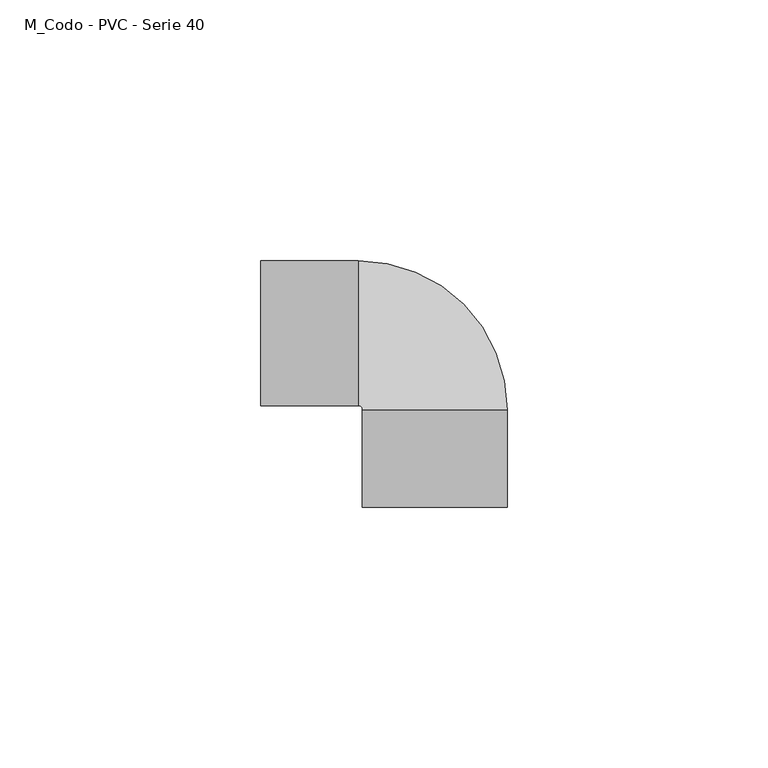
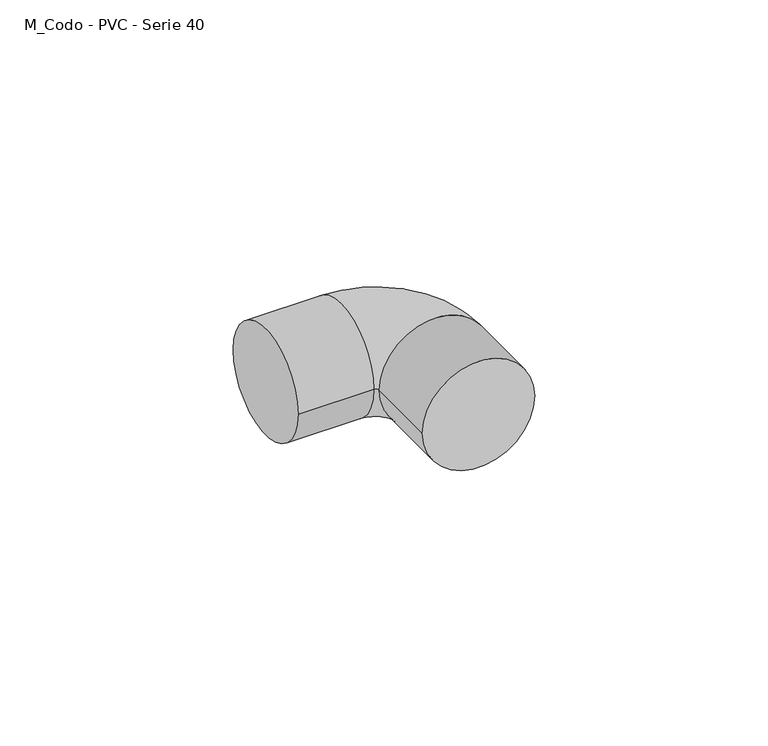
"""IFC4 building model written with IfcOpenShell, lengths in millimetres: pipe fitting geometry, M_Codo - PVC - Serie 40 : Estándar."""

from ifc_helpers import new_model, si_unit, point, frame, origin, place, context, project, spatial, circle_curve, ellipse_curve, trimmed, source, transform, mapped, element, save
from ifc_brep_helpers import plane_surface, cylinder_surface, revolved_surface, advanced_brep


def m_codo_pvc_serie_40_ba05d404(model_context):
    return source(origin(), model_context, "Body", "AdvancedBrep", [
        advanced_brep(
        [(-33.401, 13.8945938, 0.0), (-33.401, -13.8945937, 0.0), (-14.6883437, -13.8945937, 0.0), (-14.6883437, 13.8945938, 0.0), (-13.8945937, -14.6883437, 0.0), (13.8945938, -14.6883437, 0.0), (13.8945938, -33.401, 0.0), (-13.8945937, -33.401, 0.0)],
        [
            (0, 1, circle_curve(frame((-33.401, 0.0, 0.0), z_axis=(-1.0, 0.0, 0.0), x_axis=(0.0, -1.0, 0.0)), 13.8945938)),
            (1, 0, circle_curve(frame((-33.401, 0.0, 0.0), z_axis=(-1.0, 0.0, 0.0), x_axis=(0.0, -1.0, 0.0)), 13.8945938)),
            (1, 2),
            (2, 3, circle_curve(frame((-14.6883437, 0.0, 0.0), z_axis=(-1.0, 0.0, 0.0), x_axis=(0.0, -1.0, 0.0)), 13.8945938)),
            (3, 0),
            (3, 2, circle_curve(frame((-14.6883437, 0.0, 0.0), z_axis=(-1.0, 0.0, 0.0), x_axis=(0.0, -1.0, 0.0)), 13.8945938)),
            (4, 5, circle_curve(frame((0.0, -14.6883437, 0.0), z_axis=(0.0, 1.0, 0.0), x_axis=(-1.0, 0.0, 0.0)), 13.8945938)),
            (5, 3, circle_curve(frame((-14.6883437, -14.6883437, 0.0), z_axis=(0.0, 0.0, 1.0), x_axis=(0.0, 1.0, 0.0)), 28.5829375)),
            (2, 4, circle_curve(frame((-14.6883437, -14.6883437, 0.0), z_axis=(0.0, 0.0, -1.0), x_axis=(0.0, 1.0, 0.0)), 0.79375)),
            (5, 4, circle_curve(frame((0.0, -14.6883437, 0.0), z_axis=(0.0, 1.0, 0.0), x_axis=(-1.0, 0.0, 0.0)), 13.8945938)),
            (6, 7, circle_curve(frame((0.0, -33.401, 0.0), z_axis=(0.0, -1.0, 0.0), x_axis=(-1.0, 0.0, 0.0)), 13.8945938)),
            (7, 6, circle_curve(frame((0.0, -33.401, 0.0), z_axis=(0.0, -1.0, 0.0), x_axis=(-1.0, 0.0, 0.0)), 13.8945938)),
            (4, 7),
            (6, 5),
        ],
        [
            plane_surface(frame((-33.401, 0.0, 0.0), z_axis=(-1.0, 0.0, 0.0), x_axis=(0.0, 0.0, 1.0))),
            cylinder_surface(frame((-33.401, 0.0, 0.0), z_axis=(-1.0, 0.0, 0.0), x_axis=(0.0, -1.0, 0.0)), 13.8945938),
            revolved_surface(trimmed(ellipse_curve(frame((-14.6883437, 0.0, 0.0), z_axis=(1.0, 0.0, 0.0), x_axis=(0.0, -1.0, 0.0)), 13.8945938, 13.8945938), [point((-14.6883437, 13.8945938, 0.0))], [point((-14.6883437, -13.8945937, 0.0))], True, "CARTESIAN"), (-14.6883437, -14.6883437, 0.0), (0.0, 0.0, 1.0)),
            revolved_surface(trimmed(ellipse_curve(frame((-14.6883437, 0.0, 0.0), z_axis=(1.0, 0.0, 0.0), x_axis=(0.0, -1.0, 0.0)), 13.8945938, 13.8945938), [point((-14.6883437, -13.8945937, 0.0))], [point((-14.6883437, 13.8945938, 0.0))], True, "CARTESIAN"), (-14.6883437, -14.6883437, 0.0), (0.0, 0.0, 1.0)),
            plane_surface(frame((0.0, -33.401, 0.0), z_axis=(0.0, -1.0, 0.0), x_axis=(0.0, 0.0, 1.0))),
            cylinder_surface(frame((0.0, -14.6883437, 0.0), z_axis=(0.0, 1.0, 0.0), x_axis=(-1.0, 0.0, 0.0)), 13.8945938),
        ],
        [
            (0, [[1, 2]]),
            (1, [[3, 4, 5, -2]]),
            (1, [[-5, 6, -3, -1]]),
            (2, [[7, 8, -4, 9]]),
            (3, [[10, -9, -6, -8]]),
            (4, [[11, 12]]),
            (5, [[13, -11, 14, -7]]),
            (5, [[-14, -12, -13, -10]]),
        ],
    ),
    ])


if __name__ == "__main__":
    model = new_model("IFC4")
    model_context = context("Model", 3, world=origin())
    ifc_project = project(units=[si_unit("LENGTHUNIT", "METRE", prefix="MILLI")], contexts=[model_context])
    site = spatial("IfcSite", under=ifc_project)
    building = spatial("IfcBuilding", under=site)
    placement = place(None, origin())
    m_codo_pvc_serie_40_shape = m_codo_pvc_serie_40_ba05d404(model_context)
    element("IfcPipeFitting", 1, ObjectType="M_Codo - PVC - Serie 40 : Estándar", at=placement, inside=building, context=model_context, shape_type="MappedRepresentation", body=[
        mapped(m_codo_pvc_serie_40_shape, transform((0.0, 0.0, 0.0), x_axis=(1.0, 0.0, 0.0), y_axis=(0.0, 1.0, 0.0), z_axis=(0.0, 0.0, 1.0))),
    ])
    save(model, "model.ifc")
